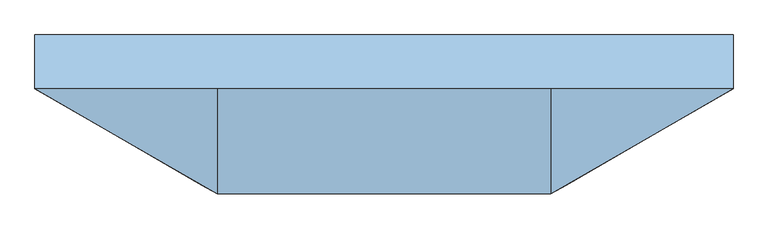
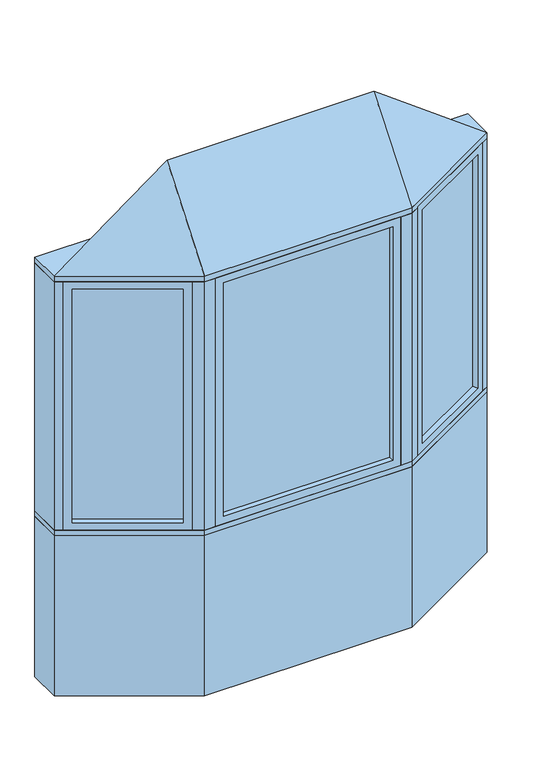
"""IFC4 building model written with IfcOpenShell, lengths in millimetres: window geometry, Pollard_Windows_Tudor Casement Bows and Bays : AML-BAY 30 AFR0512-10-500."""

from ifc_helpers import new_model, si_unit, frame, origin, origin_with_axes, place, context, project, spatial, polyline, outline, extrude, faceted_brep, source, transform, mapped, element, save


def window_e806ac1e(model_context):
    return source(origin(), model_context, "Body", "SolidModel", [
        extrude(outline(polyline([(926.612102, -82.0482469), (523.7320119, -314.6511754), (521.1920119, -310.2517664), (924.072102, -77.6488379), (926.612102, -82.0482469)])), frame((0.0, 0.0, 823.1628), z_axis=(0.0, 0.0, 1.0), x_axis=(1.0, 0.0, 0.0)), (0.0, 0.0, 1.0), 1153.6704),
        faceted_brep([(915.6135794, -88.3982469, 835.8628), (928.3135794, -110.3952922, 835.8628), (928.3135794, -110.3952922, 1964.1332), (915.6135794, -88.3982469, 1964.1332), (924.072102, -77.6488379, 823.1628), (926.612102, -82.0482469, 823.1628), (926.612102, -82.0482469, 1976.8332), (924.072102, -77.6488379, 1976.8332), (900.3735794, -62.0017926, 835.8628), (913.0735794, -83.9988379, 835.8628), (913.0735794, -83.9988379, 1964.1332), (900.3735794, -62.0017926, 1964.1332), (959.3734073, -92.4628922, 799.998), (931.4334073, -44.0693926, 799.998), (931.4334073, -44.0693926, 1999.998), (959.3734073, -92.4628922, 1999.998), (547.4305346, -330.2982207, 1964.1332), (534.7305346, -308.3011754, 1964.1332), (523.7320119, -314.6511754, 1976.8332), (521.1920119, -310.2517664, 1976.8332), (532.1905346, -303.9017664, 1964.1332), (519.4905346, -281.9047211, 1964.1332), (488.4307067, -299.8371211, 1999.998), (516.3707067, -348.2306207, 1999.998), (547.4305346, -330.2982207, 835.8628), (534.7305346, -308.3011754, 835.8628), (523.7320119, -314.6511754, 823.1628), (521.1920119, -310.2517664, 823.1628), (532.1905346, -303.9017664, 835.8628), (519.4905346, -281.9047211, 835.8628), (488.4307067, -299.8371211, 799.998), (516.3707067, -348.2306207, 799.998)], [[[0, 1, 2, 3]], [[4, 5, 6, 7]], [[8, 9, 10, 11]], [[12, 13, 14, 15]], [[3, 2, 16, 17]], [[7, 6, 18, 19]], [[11, 10, 20, 21]], [[15, 14, 22, 23]], [[17, 16, 24, 25]], [[19, 18, 26, 27]], [[21, 20, 28, 29]], [[23, 22, 30, 31]], [[25, 24, 1, 0]], [[5, 26, 18, 6], [3, 17, 25, 0]], [[27, 26, 5, 4]], [[7, 19, 27, 4], [9, 28, 20, 10]], [[29, 28, 9, 8]], [[13, 30, 22, 14], [11, 21, 29, 8]], [[31, 30, 13, 12]], [[15, 23, 31, 12], [1, 24, 16, 2]]]),
        extrude(outline(polyline([(-523.7320119, -314.6511754), (-926.612102, -82.0482469), (-924.072102, -77.6488379), (-521.1920119, -310.2517664), (-523.7320119, -314.6511754)])), frame((0.0, 0.0, 823.1628), z_axis=(0.0, 0.0, 1.0), x_axis=(1.0, 0.0, 0.0)), (0.0, 0.0, 1.0), 1153.6704),
        faceted_brep([(-532.1905346, -303.9017664, 1964.1332), (-519.4905346, -281.9047211, 1964.1332), (-519.4905346, -281.9047211, 835.8628), (-532.1905346, -303.9017664, 835.8628), (-523.7320119, -314.6511754, 1976.8332), (-521.1920119, -310.2517664, 1976.8332), (-521.1920119, -310.2517664, 823.1628), (-523.7320119, -314.6511754, 823.1628), (-547.4305346, -330.2982207, 1964.1332), (-534.7305346, -308.3011754, 1964.1332), (-534.7305346, -308.3011754, 835.8628), (-547.4305346, -330.2982207, 835.8628), (-488.4307067, -299.8371211, 1999.998), (-516.3707067, -348.2306207, 1999.998), (-516.3707067, -348.2306207, 799.998), (-488.4307067, -299.8371211, 799.998), (-900.3735794, -62.0017926, 835.8628), (-913.0735794, -83.9988379, 835.8628), (-924.072102, -77.6488379, 823.1628), (-926.612102, -82.0482469, 823.1628), (-915.6135794, -88.3982469, 835.8628), (-928.3135794, -110.3952922, 835.8628), (-959.3734073, -92.4628922, 799.998), (-931.4334073, -44.0693926, 799.998), (-900.3735794, -62.0017926, 1964.1332), (-913.0735794, -83.9988379, 1964.1332), (-924.072102, -77.6488379, 1976.8332), (-926.612102, -82.0482469, 1976.8332), (-915.6135794, -88.3982469, 1964.1332), (-928.3135794, -110.3952922, 1964.1332), (-959.3734073, -92.4628922, 1999.998), (-931.4334073, -44.0693926, 1999.998)], [[[0, 1, 2, 3]], [[4, 5, 6, 7]], [[8, 9, 10, 11]], [[12, 13, 14, 15]], [[3, 2, 16, 17]], [[7, 6, 18, 19]], [[11, 10, 20, 21]], [[15, 14, 22, 23]], [[17, 16, 24, 25]], [[19, 18, 26, 27]], [[21, 20, 28, 29]], [[23, 22, 30, 31]], [[15, 23, 31, 12], [1, 24, 16, 2]], [[25, 24, 1, 0]], [[5, 26, 18, 6], [3, 17, 25, 0]], [[27, 26, 5, 4]], [[7, 19, 27, 4], [9, 28, 20, 10]], [[29, 28, 9, 8]], [[13, 30, 22, 14], [11, 21, 29, 8]], [[31, 30, 13, 12]]]),
        extrude(outline(polyline([(399.9046365, -347.8306207), (-399.9046365, -347.8306207), (-399.9046365, -342.7506207), (399.9046365, -342.7506207), (399.9046365, -347.8306207)])), frame((0.0, 0.0, 823.1628), z_axis=(0.0, 0.0, 1.0), x_axis=(1.0, 0.0, 0.0)), (0.0, 0.0, 1.0), 1153.6704),
        faceted_brep([(387.2046365, -347.8306207, 835.8628), (387.2046365, -373.2306207, 835.8628), (387.2046365, -373.2306207, 1964.1332), (387.2046365, -347.8306207, 1964.1332), (399.9046365, -342.7506207, 823.1628), (399.9046365, -347.8306207, 823.1628), (399.9046365, -347.8306207, 1976.8332), (399.9046365, -342.7506207, 1976.8332), (387.2046365, -317.3506207, 835.8628), (387.2046365, -342.7506207, 835.8628), (387.2046365, -342.7506207, 1964.1332), (387.2046365, -317.3506207, 1964.1332), (423.0694365, -373.2306207, 799.998), (423.0694365, -317.3506207, 799.998), (423.0694365, -317.3506207, 1999.998), (423.0694365, -373.2306207, 1999.998), (-387.2046365, -373.2306207, 1964.1332), (-387.2046365, -347.8306207, 1964.1332), (-399.9046365, -347.8306207, 1976.8332), (-399.9046365, -342.7506207, 1976.8332), (-387.2046365, -342.7506207, 1964.1332), (-387.2046365, -317.3506207, 1964.1332), (-423.0694365, -317.3506207, 1999.998), (-423.0694365, -373.2306207, 1999.998), (-387.2046365, -373.2306207, 835.8628), (-387.2046365, -347.8306207, 835.8628), (-399.9046365, -347.8306207, 823.1628), (-399.9046365, -342.7506207, 823.1628), (-387.2046365, -342.7506207, 835.8628), (-387.2046365, -317.3506207, 835.8628), (-423.0694365, -317.3506207, 799.998), (-423.0694365, -373.2306207, 799.998)], [[[0, 1, 2, 3]], [[4, 5, 6, 7]], [[8, 9, 10, 11]], [[12, 13, 14, 15]], [[3, 2, 16, 17]], [[7, 6, 18, 19]], [[11, 10, 20, 21]], [[15, 14, 22, 23]], [[17, 16, 24, 25]], [[19, 18, 26, 27]], [[21, 20, 28, 29]], [[23, 22, 30, 31]], [[15, 23, 31, 12], [1, 24, 16, 2]], [[25, 24, 1, 0]], [[5, 26, 18, 6], [3, 17, 25, 0]], [[27, 26, 5, 4]], [[7, 19, 27, 4], [9, 28, 20, 10]], [[29, 28, 9, 8]], [[13, 30, 22, 14], [11, 21, 29, 8]], [[31, 30, 13, 12]]]),
        faceted_brep([(990.0, -74.7806207, 2025.398), (473.0694365, -373.2306207, 2025.398), (-473.0694365, -373.2306207, 2025.398), (-990.0, -74.7806207, 2025.398), (-473.0694365, -74.7806207, 2406.398), (473.0694365, -74.7806207, 2406.398)], [[[0, 1, 2, 3]], [[3, 2, 4]], [[2, 1, 5, 4]], [[1, 0, 5]], [[0, 3, 4, 5]]]),
        extrude(outline(polyline([(-990.0, 77.6193793), (990.0, 77.6193793), (990.0, -74.7806207), (473.0694365, -373.2306207), (-473.0694365, -373.2306207), (-990.0, -74.7806207), (-990.0, 77.6193793)])), frame((0.0, 0.0, 1999.998), z_axis=(0.0, 0.0, 1.0), x_axis=(1.0, 0.0, 0.0)), (0.0, 0.0, 1.0), 25.4),
        extrude(outline(polyline([(-990.0, -74.7806207), (-990.0, 77.6193793), (-949.1645431, 77.6193793), (-949.1645431, -74.7806207), (-959.3734073, -92.4628922), (-990.0, -74.7806207)])), frame((0.0, 0.0, 799.998), z_axis=(0.0, 0.0, 1.0), x_axis=(1.0, 0.0, 0.0)), (0.0, 0.0, 1.0), 1200.0),
        extrude(outline(polyline([(990.0, 77.6193793), (990.0, -74.7806207), (959.3734073, -92.4628922), (949.1645431, -74.7806207), (949.1645431, 77.6193793), (990.0, 77.6193793)])), frame((0.0, 0.0, 799.998), z_axis=(0.0, 0.0, 1.0), x_axis=(1.0, 0.0, 0.0)), (0.0, 0.0, 1.0), 1200.0),
        extrude(outline(polyline([(473.0694365, -373.2306207), (423.0694365, -373.2306207), (423.0694365, -323.2306207), (459.6719769, -323.2306207), (491.3707067, -304.9293505), (516.3707067, -348.2306207), (473.0694365, -373.2306207)])), frame((0.0, 0.0, 799.998), z_axis=(0.0, 0.0, 1.0), x_axis=(1.0, 0.0, 0.0)), (0.0, 0.0, 1.0), 1200.0),
        extrude(outline(polyline([(-473.0694365, -373.2306207), (-516.3707067, -348.2306207), (-491.3707067, -304.9293505), (-459.6719769, -323.2306207), (-423.0694365, -323.2306207), (-423.0694365, -373.2306207), (-473.0694365, -373.2306207)])), frame((0.0, 0.0, 799.998), z_axis=(0.0, 0.0, 1.0), x_axis=(1.0, 0.0, 0.0)), (0.0, 0.0, 1.0), 1200.0),
        extrude(outline(polyline([(-473.0694365, -373.2306207), (-990.0, -74.7806207), (-990.0, 77.6193793), (-949.1645431, 77.6193793), (-432.2339796, -220.8306207), (432.2339796, -220.8306207), (949.1645431, 77.6193793), (990.0, 77.6193793), (990.0, -74.7806207), (473.0694365, -373.2306207), (-473.0694365, -373.2306207)])), frame((0.0, 0.0, 774.598), z_axis=(0.0, 0.0, 1.0), x_axis=(1.0, 0.0, 0.0)), (0.0, 0.0, 1.0), 25.4),
        extrude(outline(polyline([(-990.0, -74.7806207), (-990.0, 77.6193793), (-949.1645431, 77.6193793), (-432.2339796, -220.8306207), (432.2339796, -220.8306207), (949.1645431, 77.6193793), (990.0, 77.6193793), (990.0, -74.7806207), (473.0694365, -373.2306207), (-473.0694365, -373.2306207), (-990.0, -74.7806207)])), origin_with_axes(), (0.0, 0.0, 1.0), 774.598),
    ])


if __name__ == "__main__":
    model = new_model("IFC4")
    model_context = context("Model", 3, world=origin())
    ifc_project = project(units=[si_unit("LENGTHUNIT", "METRE", prefix="MILLI")], contexts=[model_context])
    site = spatial("IfcSite", under=ifc_project)
    building = spatial("IfcBuilding", under=site)
    placement = place(None, origin())
    window_shape = window_e806ac1e(model_context)
    element("IfcWindow", 1, ObjectType="Pollard_Windows_Tudor Casement Bows and Bays : AML-BAY 30 AFR0512-10-500", at=placement, inside=building, context=model_context, shape_type="MappedRepresentation", body=[
        mapped(window_shape, transform((0.0, 0.0, 0.0), x_axis=(1.0, 0.0, 0.0), y_axis=(0.0, 1.0, 0.0), z_axis=(0.0, 0.0, 1.0))),
    ])
    save(model, "model.ifc")
